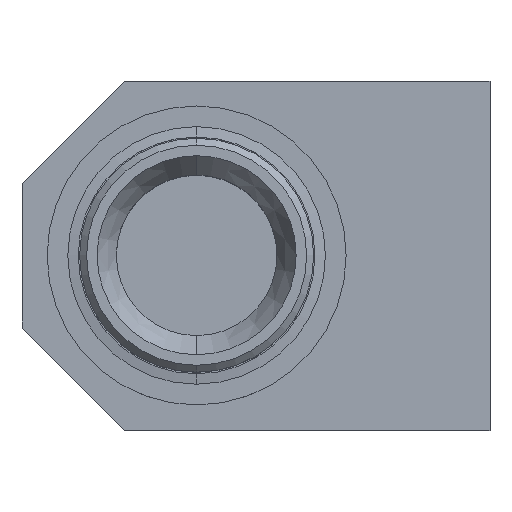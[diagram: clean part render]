
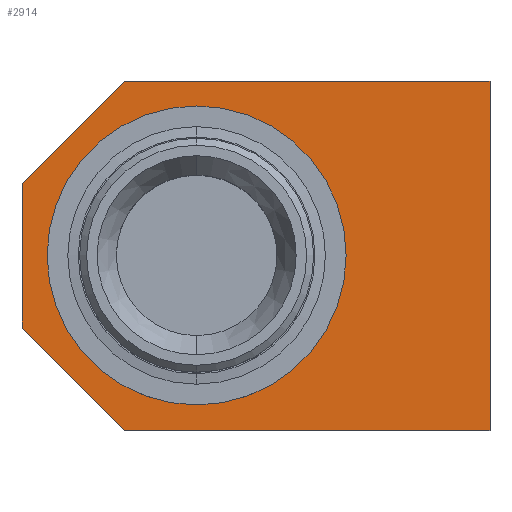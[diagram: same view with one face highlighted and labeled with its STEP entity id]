
A CAD part, top view. The second image highlights one B-rep face of the part: STEP entity #2914.
In plain terms, the highlighted planar face has unit normal (0, 0, 1).
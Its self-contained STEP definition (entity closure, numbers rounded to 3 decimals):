
#42 = ORIENTED_EDGE ( 'NONE', *, *, #3562, .F. ) ;
#159 = DIRECTION ( 'NONE',  ( -0.707, 0.707, 0. ) ) ;
#215 = CARTESIAN_POINT ( 'NONE',  ( 19., 0., 25. ) ) ;
#273 = CIRCLE ( 'NONE', #1703, 19. ) ;
#312 = EDGE_CURVE ( 'NONE', #4064, #1261, #1138, .T. ) ;
#331 = ORIENTED_EDGE ( 'NONE', *, *, #312, .F. ) ;
#364 = AXIS2_PLACEMENT_3D ( 'NONE', #4923, #2453, #4513 ) ;
#455 = VERTEX_POINT ( 'NONE', #794 ) ;
#484 = ORIENTED_EDGE ( 'NONE', *, *, #3053, .F. ) ;
#558 = AXIS2_PLACEMENT_3D ( 'NONE', #1707, #2045, #833 ) ;
#631 = CARTESIAN_POINT ( 'NONE',  ( -25., -10.355, 25. ) ) ;
#749 = FACE_OUTER_BOUND ( 'NONE', #4280, .T. ) ;
#794 = CARTESIAN_POINT ( 'NONE',  ( -19., 0., 25. ) ) ;
#833 = DIRECTION ( 'NONE',  ( -1., 0., 0. ) ) ;
#858 = CIRCLE ( 'NONE', #3256, 19. ) ;
#877 = LINE ( 'NONE', #4856, #2478 ) ;
#969 = DIRECTION ( 'NONE',  ( 0., -1., 0. ) ) ;
#987 = DIRECTION ( 'NONE',  ( 1., 0., 0. ) ) ;
#1082 = CARTESIAN_POINT ( 'NONE',  ( -10.355, 25., 25. ) ) ;
#1086 = CIRCLE ( 'NONE', #4724, 19. ) ;
#1137 = VERTEX_POINT ( 'NONE', #4961 ) ;
#1138 = LINE ( 'NONE', #1965, #4127 ) ;
#1147 = CIRCLE ( 'NONE', #2532, 19. ) ;
#1153 = CARTESIAN_POINT ( 'NONE',  ( 0., 0., 25. ) ) ;
#1177 = DIRECTION ( 'NONE',  ( 0., 1., 0. ) ) ;
#1203 = ORIENTED_EDGE ( 'NONE', *, *, #3556, .F. ) ;
#1261 = VERTEX_POINT ( 'NONE', #1373 ) ;
#1373 = CARTESIAN_POINT ( 'NONE',  ( -10.355, -25., 25. ) ) ;
#1404 = CIRCLE ( 'NONE', #364, 19. ) ;
#1412 = DIRECTION ( 'NONE',  ( 0.707, 0.707, 0. ) ) ;
#1541 = ORIENTED_EDGE ( 'NONE', *, *, #2108, .F. ) ;
#1543 = VECTOR ( 'NONE', #159, 1000. ) ;
#1545 = DIRECTION ( 'NONE',  ( 0., -1., 0. ) ) ;
#1568 = VERTEX_POINT ( 'NONE', #2417 ) ;
#1583 = CARTESIAN_POINT ( 'NONE',  ( 0., -19., 25. ) ) ;
#1703 = AXIS2_PLACEMENT_3D ( 'NONE', #5105, #2565, #5202 ) ;
#1707 = CARTESIAN_POINT ( 'NONE',  ( 0., 22., 25. ) ) ;
#1853 = CARTESIAN_POINT ( 'NONE',  ( -25., -10.355, 25. ) ) ;
#1859 = CARTESIAN_POINT ( 'NONE',  ( 42., 25., 25. ) ) ;
#1867 = ORIENTED_EDGE ( 'NONE', *, *, #3067, .F. ) ;
#1965 = CARTESIAN_POINT ( 'NONE',  ( 42., -25., 25. ) ) ;
#2045 = DIRECTION ( 'NONE',  ( 0., 0., -1. ) ) ;
#2088 = CIRCLE ( 'NONE', #2974, 19. ) ;
#2108 = EDGE_CURVE ( 'NONE', #455, #4048, #858, .T. ) ;
#2147 = CARTESIAN_POINT ( 'NONE',  ( 0., 0., 25. ) ) ;
#2164 = FACE_BOUND ( 'NONE', #5319, .T. ) ;
#2200 = DIRECTION ( 'NONE',  ( 0., -1., 0. ) ) ;
#2209 = VERTEX_POINT ( 'NONE', #4666 ) ;
#2345 = ORIENTED_EDGE ( 'NONE', *, *, #5068, .F. ) ;
#2367 = CARTESIAN_POINT ( 'NONE',  ( -25., 10.355, 25. ) ) ;
#2376 = ORIENTED_EDGE ( 'NONE', *, *, #3021, .F. ) ;
#2378 = DIRECTION ( 'NONE',  ( 0., 0., 1. ) ) ;
#2417 = CARTESIAN_POINT ( 'NONE',  ( 9.5, 16.454, 25. ) ) ;
#2453 = DIRECTION ( 'NONE',  ( 0., 0., 1. ) ) ;
#2478 = VECTOR ( 'NONE', #987, 1000. ) ;
#2532 = AXIS2_PLACEMENT_3D ( 'NONE', #2147, #3024, #4684 ) ;
#2565 = DIRECTION ( 'NONE',  ( 0., 0., 1. ) ) ;
#2666 = LINE ( 'NONE', #631, #1543 ) ;
#2733 = CARTESIAN_POINT ( 'NONE',  ( -10.355, 25., 25. ) ) ;
#2767 = EDGE_CURVE ( 'NONE', #4581, #1137, #1404, .T. ) ;
#2826 = AXIS2_PLACEMENT_3D ( 'NONE', #4398, #4006, #969 ) ;
#2914 = ADVANCED_FACE ( 'NONE', ( #749, #2164 ), #5085, .F. ) ;
#2924 = LINE ( 'NONE', #2733, #3064 ) ;
#2974 = AXIS2_PLACEMENT_3D ( 'NONE', #5419, #2378, #1545 ) ;
#3021 = EDGE_CURVE ( 'NONE', #1137, #3488, #1086, .T. ) ;
#3024 = DIRECTION ( 'NONE',  ( 0., 0., 1. ) ) ;
#3053 = EDGE_CURVE ( 'NONE', #4457, #455, #273, .T. ) ;
#3058 = CARTESIAN_POINT ( 'NONE',  ( 0., 0., 25. ) ) ;
#3064 = VECTOR ( 'NONE', #1412, 1000. ) ;
#3067 = EDGE_CURVE ( 'NONE', #4048, #4581, #5485, .T. ) ;
#3256 = AXIS2_PLACEMENT_3D ( 'NONE', #1153, #5394, #3310 ) ;
#3310 = DIRECTION ( 'NONE',  ( 0., -1., 0. ) ) ;
#3488 = VERTEX_POINT ( 'NONE', #215 ) ;
#3495 = VERTEX_POINT ( 'NONE', #1082 ) ;
#3526 = ORIENTED_EDGE ( 'NONE', *, *, #5314, .F. ) ;
#3556 = EDGE_CURVE ( 'NONE', #2209, #4064, #3928, .T. ) ;
#3562 = EDGE_CURVE ( 'NONE', #1261, #4950, #2666, .T. ) ;
#3627 = EDGE_CURVE ( 'NONE', #3488, #1568, #2088, .T. ) ;
#3733 = VECTOR ( 'NONE', #1177, 1000. ) ;
#3737 = VECTOR ( 'NONE', #4437, 1000. ) ;
#3874 = CARTESIAN_POINT ( 'NONE',  ( -9.5, -16.454, 25. ) ) ;
#3928 = LINE ( 'NONE', #1859, #3737 ) ;
#4006 = DIRECTION ( 'NONE',  ( 0., 0., 1. ) ) ;
#4048 = VERTEX_POINT ( 'NONE', #3874 ) ;
#4064 = VERTEX_POINT ( 'NONE', #5159 ) ;
#4127 = VECTOR ( 'NONE', #4494, 1000. ) ;
#4280 = EDGE_LOOP ( 'NONE', ( #5321, #2345, #3526, #42, #331, #1203 ) ) ;
#4398 = CARTESIAN_POINT ( 'NONE',  ( 0., 0., 25. ) ) ;
#4437 = DIRECTION ( 'NONE',  ( 0., -1., 0. ) ) ;
#4457 = VERTEX_POINT ( 'NONE', #5347 ) ;
#4484 = VERTEX_POINT ( 'NONE', #2367 ) ;
#4494 = DIRECTION ( 'NONE',  ( -1., 0., 0. ) ) ;
#4513 = DIRECTION ( 'NONE',  ( 0., -1., 0. ) ) ;
#4581 = VERTEX_POINT ( 'NONE', #1583 ) ;
#4666 = CARTESIAN_POINT ( 'NONE',  ( 42., 25., 25. ) ) ;
#4683 = DIRECTION ( 'NONE',  ( 0., 0., 1. ) ) ;
#4684 = DIRECTION ( 'NONE',  ( 0., -1., 0. ) ) ;
#4724 = AXIS2_PLACEMENT_3D ( 'NONE', #3058, #4683, #2200 ) ;
#4783 = ORIENTED_EDGE ( 'NONE', *, *, #4804, .F. ) ;
#4804 = EDGE_CURVE ( 'NONE', #1568, #4457, #1147, .T. ) ;
#4856 = CARTESIAN_POINT ( 'NONE',  ( -10.355, 25., 25. ) ) ;
#4862 = LINE ( 'NONE', #4933, #3733 ) ;
#4904 = ORIENTED_EDGE ( 'NONE', *, *, #2767, .F. ) ;
#4923 = CARTESIAN_POINT ( 'NONE',  ( 0., 0., 25. ) ) ;
#4933 = CARTESIAN_POINT ( 'NONE',  ( -25., 10.355, 25. ) ) ;
#4950 = VERTEX_POINT ( 'NONE', #1853 ) ;
#4961 = CARTESIAN_POINT ( 'NONE',  ( 9.5, -16.454, 25. ) ) ;
#5038 = ORIENTED_EDGE ( 'NONE', *, *, #3627, .F. ) ;
#5068 = EDGE_CURVE ( 'NONE', #4484, #3495, #2924, .T. ) ;
#5085 = PLANE ( 'NONE',  #558 ) ;
#5105 = CARTESIAN_POINT ( 'NONE',  ( 0., 0., 25. ) ) ;
#5159 = CARTESIAN_POINT ( 'NONE',  ( 42., -25., 25. ) ) ;
#5200 = EDGE_CURVE ( 'NONE', #3495, #2209, #877, .T. ) ;
#5202 = DIRECTION ( 'NONE',  ( 0., -1., 0. ) ) ;
#5314 = EDGE_CURVE ( 'NONE', #4950, #4484, #4862, .T. ) ;
#5319 = EDGE_LOOP ( 'NONE', ( #5038, #2376, #4904, #1867, #1541, #484, #4783 ) ) ;
#5321 = ORIENTED_EDGE ( 'NONE', *, *, #5200, .F. ) ;
#5347 = CARTESIAN_POINT ( 'NONE',  ( -9.5, 16.454, 25. ) ) ;
#5394 = DIRECTION ( 'NONE',  ( 0., 0., 1. ) ) ;
#5419 = CARTESIAN_POINT ( 'NONE',  ( 0., 0., 25. ) ) ;
#5485 = CIRCLE ( 'NONE', #2826, 19. ) ;
